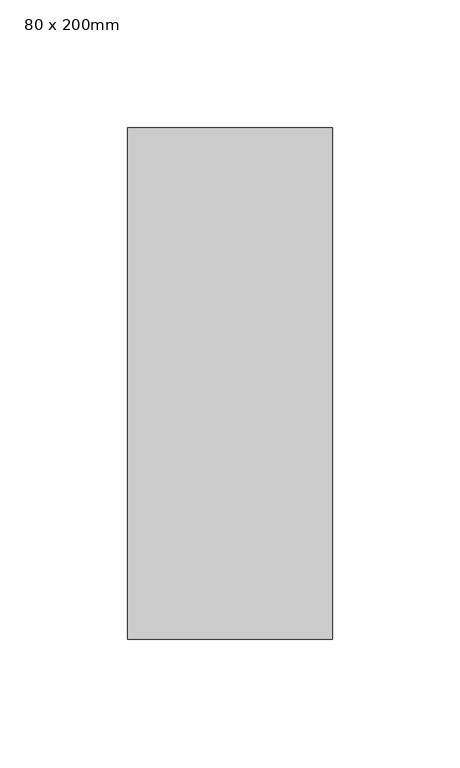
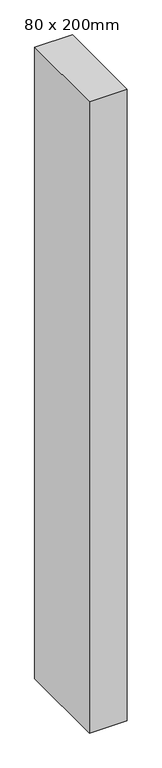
"""IFC4 building model written with IfcOpenShell, lengths in millimetres: member geometry, 矩形竖梃 : 80 x 200mm."""

from ifc_helpers import new_model, si_unit, frame, origin, place, context, project, spatial, polyline, outline, extrude, source, transform, mapped, element, save


def member_80_x_200mm_66b8223e(model_context):
    return source(origin(), model_context, "Body", "SweptSolid", [
        extrude(outline(polyline([(40.0, 100.0), (40.0, -100.0), (-40.0, -100.0), (-40.0, 100.0), (40.0, 100.0)])), frame((0.0, 0.0, -1410.0076317), z_axis=(0.0, 0.0, 1.0), x_axis=(1.0, 0.0, 0.0)), (0.0, 0.0, 1.0), 1410.0076317),
    ])


if __name__ == "__main__":
    model = new_model("IFC4")
    model_context = context("Model", 3, world=origin())
    ifc_project = project(units=[si_unit("LENGTHUNIT", "METRE", prefix="MILLI")], contexts=[model_context])
    site = spatial("IfcSite", under=ifc_project)
    building = spatial("IfcBuilding", under=site)
    placement = place(None, origin())
    member_80_x_200mm_shape = member_80_x_200mm_66b8223e(model_context)
    element("IfcMember", 1, ObjectType="矩形竖梃 : 80 x 200mm", at=placement, inside=building, context=model_context, shape_type="MappedRepresentation", body=[
        mapped(member_80_x_200mm_shape, transform((0.0, 0.0, 0.0), x_axis=(1.0, 0.0, 0.0), y_axis=(0.0, 1.0, 0.0), z_axis=(0.0, 0.0, 1.0))),
    ])
    save(model, "model.ifc")
